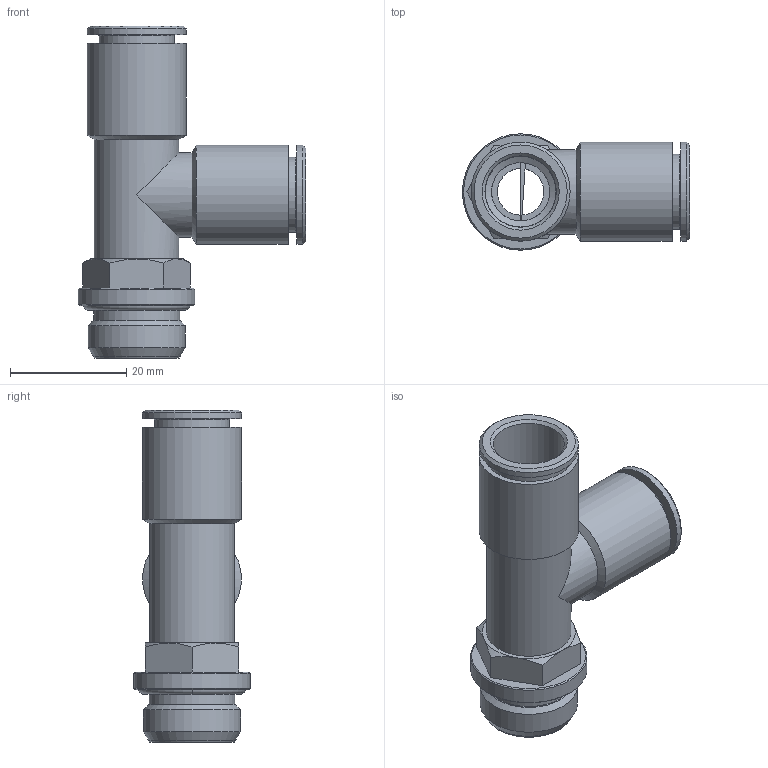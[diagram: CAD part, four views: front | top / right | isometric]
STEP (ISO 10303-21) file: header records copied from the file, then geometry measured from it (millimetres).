
FILE_DESCRIPTION(('Bauteilbeschreibung','HiCAD-Model','HiCAD-STEP-TRANSLATION','Bauteilbeschreibung'),'2;1');
FILE_NAME('B:/ABGLEICH/ZEICHNUNGEN/STEP FÜR INTERNET/STEP/IPSO 021/202111_IPSO_021_12_3-8.STP','2012-02-27T15:15:15+00:00',('Konstrukteur'),('Konstrukteur Firma GmbH'),' HiCAD neXt 2008, Step 3.1.1401.2J ','HiCAD neXt 2008','confidential');
FILE_SCHEMA(('AUTOMOTIVE_DESIGN { 1 2 10303 214 0 1 1 1 }'));
Length unit declared in the file: millimetre
Products named in the file (8): A02111_IPSO_021_12_3_8; OR 14X1_78; DR12_5; DR1205; R202110; A14629_GEW_1_4_3_8; A146290GEW01040308; G 3_8
Assembly tree (7 placements, depth 3):
  A02111_IPSO_021_12_3_8
    OR 14X1_78
    DR12_5
    DR1205
    R202110
    A14629_GEW_1_4_3_8
    A146290GEW01040308
      G 3_8
Bounding box: 39 x 20 x 57 mm (x, y, z)
Volume: 7324 mm3; surface area: 11239.7 mm2
Topology: 6 solids, 6 shells, 106 faces, 219 edges, 129 vertices
Faces by surface type: cone 39, cylinder 32, plane 25, torus 10
Full cylindrical faces by diameter (mm): 8 x1, 10 x2, 11 x1, 12.15 x2, 12.2 x2, 12.25 x2, 12.9 x2, 13.5 x2, 14 x2, 14.5 x2, 14.7 x2, 14.75 x1, 14.95 x2, 15.2 x2, 16.662 x1, 17 x4, 20 x1
Entity records: 3700 total; most frequent: CARTESIAN_POINT 936, DIRECTION 464, ORIENTED_EDGE 274, AXIS2_PLACEMENT_3D 225, EDGE_LOOP 194, EDGE_CURVE 137, COLOUR_RGB 129, PRESENTATION_STYLE_ASSIGNMENT 129
